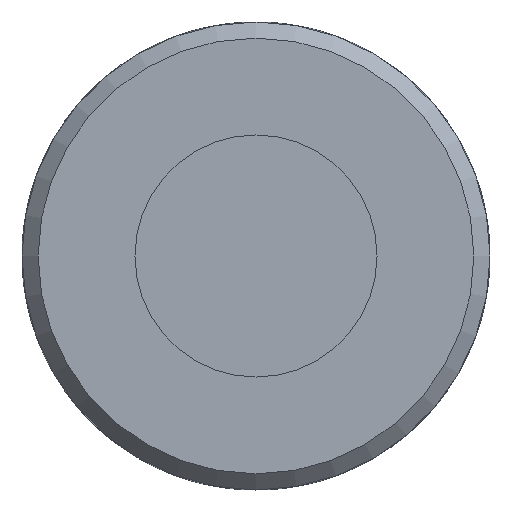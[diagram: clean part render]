
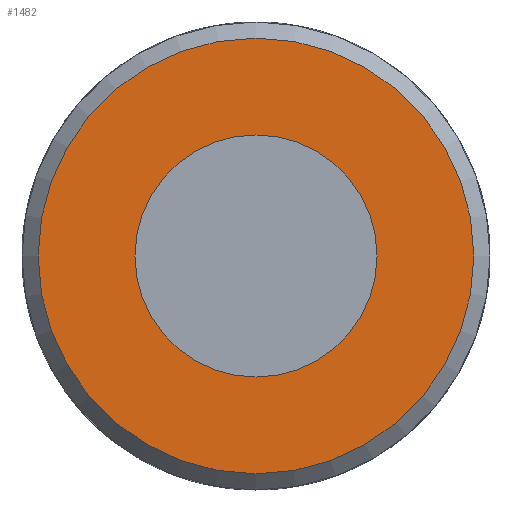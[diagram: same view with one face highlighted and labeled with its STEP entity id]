
A CAD part, front view. The second image highlights one B-rep face of the part: STEP entity #1482.
In plain terms, the highlighted planar face has unit normal (0, -1, 0).
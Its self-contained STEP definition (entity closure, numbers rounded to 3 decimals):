
#200=PLANE('',#1633);
#334=FACE_BOUND('',#543,.T.);
#412=FACE_OUTER_BOUND('',#542,.T.);
#542=EDGE_LOOP('',(#1295));
#543=EDGE_LOOP('',(#1296));
#626=CIRCLE('',#1628,15.);
#628=CIRCLE('',#1631,27.);
#754=VERTEX_POINT('',#2913);
#756=VERTEX_POINT('',#2918);
#939=EDGE_CURVE('',#754,#754,#626,.T.);
#941=EDGE_CURVE('',#756,#756,#628,.T.);
#1295=ORIENTED_EDGE('',*,*,#941,.F.);
#1296=ORIENTED_EDGE('',*,*,#939,.T.);
#1482=ADVANCED_FACE('',(#412,#334),#200,.F.);
#1628=AXIS2_PLACEMENT_3D('',#2914,#1954,#1955);
#1631=AXIS2_PLACEMENT_3D('',#2919,#1960,#1961);
#1633=AXIS2_PLACEMENT_3D('',#3127,#1968,#1969);
#1954=DIRECTION('center_axis',(0.,1.,0.));
#1955=DIRECTION('ref_axis',(-1.,0.,0.));
#1960=DIRECTION('center_axis',(0.,1.,0.));
#1961=DIRECTION('ref_axis',(1.,0.,0.));
#1968=DIRECTION('center_axis',(0.,1.,0.));
#1969=DIRECTION('ref_axis',(0.,0.,1.));
#2913=CARTESIAN_POINT('',(15.,-75.5,0.));
#2914=CARTESIAN_POINT('Origin',(0.,-75.5,0.));
#2918=CARTESIAN_POINT('',(-27.,-75.5,0.));
#2919=CARTESIAN_POINT('Origin',(0.,-75.5,0.));
#3127=CARTESIAN_POINT('Origin',(0.,-75.5,0.));
